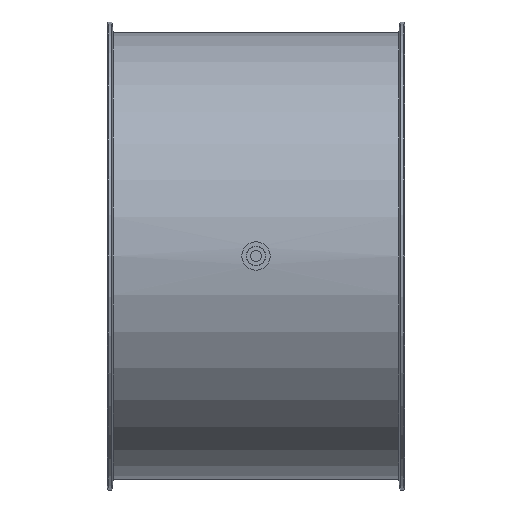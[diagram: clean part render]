
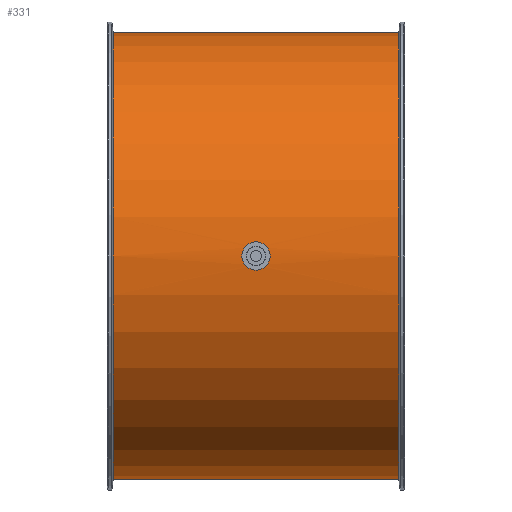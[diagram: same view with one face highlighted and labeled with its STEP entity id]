
A CAD part, front view. The second image highlights one B-rep face of the part: STEP entity #331.
In plain terms, the highlighted cylindrical face has radius 301 mm (diameter 602 mm), a full revolution.
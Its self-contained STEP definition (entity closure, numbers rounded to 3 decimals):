
#149=B_SPLINE_CURVE_WITH_KNOTS('',3,(#1421,#1422,#1423,#1424,#1425,#1426,
#1427,#1428,#1429,#1430,#1431,#1432,#1433,#1434,#1435,#1436,#1437,#1438),
 .UNSPECIFIED.,.T.,.F.,(2,2,2,2,2,2,2,2,2,2,2),(-0.125,0.,0.125,0.25,
0.375,0.5,0.625,0.75,0.875,1.,1.125),.UNSPECIFIED.);
#150=B_SPLINE_CURVE_WITH_KNOTS('',3,(#1440,#1441,#1442,#1443,#1444,#1445,
#1446,#1447,#1448,#1449,#1450,#1451,#1452,#1453,#1454,#1455,#1456,#1457),
 .UNSPECIFIED.,.T.,.F.,(2,2,2,2,2,2,2,2,2,2,2),(-0.125,0.,0.125,0.25,
0.375,0.5,0.625,0.75,0.875,1.,1.125),.UNSPECIFIED.);
#177=CYLINDRICAL_SURFACE('',#997,301.);
#228=FACE_BOUND('',#445,.T.);
#229=FACE_BOUND('',#446,.T.);
#230=FACE_BOUND('',#447,.T.);
#231=FACE_BOUND('',#448,.T.);
#331=ADVANCED_FACE('',(#228,#229,#230,#231),#177,.T.);
#445=EDGE_LOOP('',(#573));
#446=EDGE_LOOP('',(#574));
#447=EDGE_LOOP('',(#575));
#448=EDGE_LOOP('',(#576));
#573=ORIENTED_EDGE('',*,*,#822,.F.);
#574=ORIENTED_EDGE('',*,*,#824,.F.);
#575=ORIENTED_EDGE('',*,*,#825,.F.);
#576=ORIENTED_EDGE('',*,*,#826,.F.);
#742=VERTEX_POINT('',#1414);
#744=VERTEX_POINT('',#1419);
#745=VERTEX_POINT('',#1439);
#746=VERTEX_POINT('',#1458);
#822=EDGE_CURVE('',#742,#742,#914,.T.);
#824=EDGE_CURVE('',#744,#744,#916,.T.);
#825=EDGE_CURVE('',#745,#745,#149,.T.);
#826=EDGE_CURVE('',#746,#746,#150,.T.);
#914=CIRCLE('',#992,301.);
#916=CIRCLE('',#995,301.);
#992=AXIS2_PLACEMENT_3D('',#1413,#1147,#1148);
#995=AXIS2_PLACEMENT_3D('',#1418,#1153,#1154);
#997=AXIS2_PLACEMENT_3D('',#1459,#1157,#1158);
#1147=DIRECTION('',(1.,0.,0.));
#1148=DIRECTION('',(0.,0.,-1.));
#1153=DIRECTION('',(-1.,0.,0.));
#1154=DIRECTION('',(0.,0.,1.));
#1157=DIRECTION('',(1.,0.,0.));
#1158=DIRECTION('',(0.,0.,-1.));
#1413=CARTESIAN_POINT('',(192.133,-109.,125.));
#1414=CARTESIAN_POINT('',(192.133,-109.,-176.));
#1418=CARTESIAN_POINT('',(-192.133,-109.,125.));
#1419=CARTESIAN_POINT('',(-192.133,-109.,426.));
#1421=CARTESIAN_POINT('',(3.436,191.719,112.));
#1422=CARTESIAN_POINT('',(-3.436,191.719,112.));
#1423=CARTESIAN_POINT('',(-6.795,191.786,113.41));
#1424=CARTESIAN_POINT('',(-11.591,191.933,118.207));
#1425=CARTESIAN_POINT('',(-12.998,192.,121.601));
#1426=CARTESIAN_POINT('',(-13.002,192.,128.385));
#1427=CARTESIAN_POINT('',(-11.623,191.934,131.76));
#1428=CARTESIAN_POINT('',(-6.771,191.786,136.616));
#1429=CARTESIAN_POINT('',(-3.398,191.719,137.999));
#1430=CARTESIAN_POINT('',(3.389,191.719,138.001));
#1431=CARTESIAN_POINT('',(6.784,191.786,136.596));
#1432=CARTESIAN_POINT('',(11.583,191.933,131.806));
#1433=CARTESIAN_POINT('',(12.997,192.,128.443));
#1434=CARTESIAN_POINT('',(13.003,192.,121.583));
#1435=CARTESIAN_POINT('',(11.598,191.933,118.217));
#1436=CARTESIAN_POINT('',(6.802,191.786,113.413));
#1437=CARTESIAN_POINT('',(3.436,191.719,112.));
#1438=CARTESIAN_POINT('',(-3.436,191.719,112.));
#1439=CARTESIAN_POINT('',(0.,191.719,112.));
#1440=CARTESIAN_POINT('',(-3.436,-409.719,112.));
#1441=CARTESIAN_POINT('',(3.436,-409.719,112.));
#1442=CARTESIAN_POINT('',(6.795,-409.786,113.41));
#1443=CARTESIAN_POINT('',(11.591,-409.933,118.207));
#1444=CARTESIAN_POINT('',(12.998,-410.,121.601));
#1445=CARTESIAN_POINT('',(13.002,-410.,128.385));
#1446=CARTESIAN_POINT('',(11.623,-409.934,131.76));
#1447=CARTESIAN_POINT('',(6.771,-409.786,136.616));
#1448=CARTESIAN_POINT('',(3.398,-409.719,137.999));
#1449=CARTESIAN_POINT('',(-3.389,-409.719,138.001));
#1450=CARTESIAN_POINT('',(-6.784,-409.786,136.596));
#1451=CARTESIAN_POINT('',(-11.583,-409.933,131.806));
#1452=CARTESIAN_POINT('',(-12.997,-410.,128.443));
#1453=CARTESIAN_POINT('',(-13.003,-410.,121.583));
#1454=CARTESIAN_POINT('',(-11.598,-409.933,118.217));
#1455=CARTESIAN_POINT('',(-6.802,-409.786,113.413));
#1456=CARTESIAN_POINT('',(-3.436,-409.719,112.));
#1457=CARTESIAN_POINT('',(3.436,-409.719,112.));
#1458=CARTESIAN_POINT('',(0.,-409.719,112.));
#1459=CARTESIAN_POINT('',(-200.,-109.,125.));
